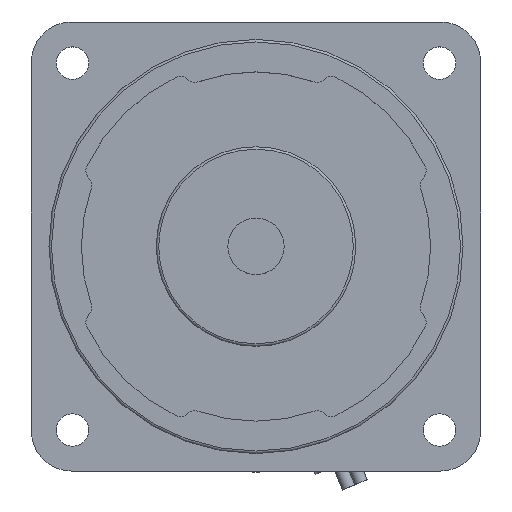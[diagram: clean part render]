
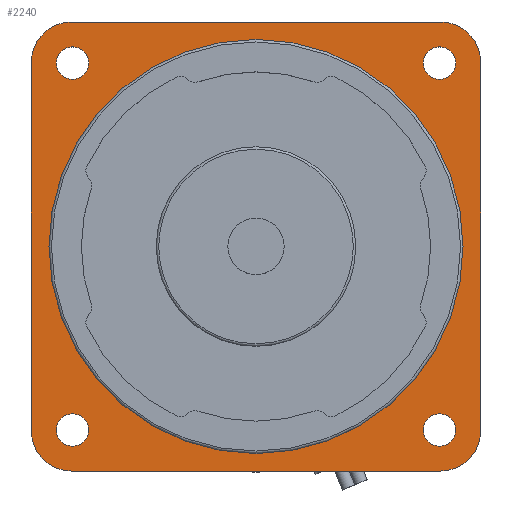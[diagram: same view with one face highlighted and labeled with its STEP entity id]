
A CAD part, top view. The second image highlights one B-rep face of the part: STEP entity #2240.
In plain terms, the highlighted planar face has unit normal (0, 0, 1).
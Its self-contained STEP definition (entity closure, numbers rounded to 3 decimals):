
#1013=CARTESIAN_POINT('',(41.5,0.,105.));
#1014=VERTEX_POINT('',#1013);
#1015=CARTESIAN_POINT('',(0.0,0.0,105.));
#1016=DIRECTION('',(0.0,0.0,-1.0));
#1017=DIRECTION('',(-1.0,0.0,0.0));
#1018=AXIS2_PLACEMENT_3D('',#1015,#1016,#1017);
#1019=CIRCLE('',#1018,41.5);
#1020=EDGE_CURVE('',#1014,#1014,#1019,.T.);
#1939=CARTESIAN_POINT('',(45.,37.0,105.));
#1940=VERTEX_POINT('',#1939);
#1941=CARTESIAN_POINT('',(45.,-37.0,105.));
#1942=VERTEX_POINT('',#1941);
#1943=CARTESIAN_POINT('',(45.,37.0,105.0));
#1944=DIRECTION('',(0.0,-1.0,0.0));
#1945=VECTOR('',#1944,74.0);
#1946=LINE('',#1943,#1945);
#1947=EDGE_CURVE('',#1940,#1942,#1946,.T.);
#1970=CARTESIAN_POINT('',(37.,-45.0,105.));
#1971=VERTEX_POINT('',#1970);
#1972=CARTESIAN_POINT('',(37.,-37.0,105.0));
#1973=DIRECTION('',(0.0,0.0,-1.0));
#1974=DIRECTION('',(0.0,1.0,0.0));
#1975=AXIS2_PLACEMENT_3D('',#1972,#1973,#1974);
#1976=CIRCLE('',#1975,8.);
#1977=EDGE_CURVE('',#1942,#1971,#1976,.T.);
#1995=CARTESIAN_POINT('',(-37.,-45.0,105.));
#1996=VERTEX_POINT('',#1995);
#1997=CARTESIAN_POINT('',(37.,-45.0,105.0));
#1998=DIRECTION('',(-1.0,0.0,0.0));
#1999=VECTOR('',#1998,74.);
#2000=LINE('',#1997,#1999);
#2001=EDGE_CURVE('',#1971,#1996,#2000,.T.);
#2019=CARTESIAN_POINT('',(-45.,-37.0,105.));
#2020=VERTEX_POINT('',#2019);
#2021=CARTESIAN_POINT('',(-37.,-37.0,105.0));
#2022=DIRECTION('',(0.0,0.0,-1.0));
#2023=DIRECTION('',(1.0,0.0,0.0));
#2024=AXIS2_PLACEMENT_3D('',#2021,#2022,#2023);
#2025=CIRCLE('',#2024,8.);
#2026=EDGE_CURVE('',#1996,#2020,#2025,.T.);
#2044=CARTESIAN_POINT('',(-45.,37.0,105.));
#2045=VERTEX_POINT('',#2044);
#2046=CARTESIAN_POINT('',(-45.,-37.0,105.0));
#2047=DIRECTION('',(0.0,1.0,0.0));
#2048=VECTOR('',#2047,74.0);
#2049=LINE('',#2046,#2048);
#2050=EDGE_CURVE('',#2020,#2045,#2049,.T.);
#2068=CARTESIAN_POINT('',(-37.,45.0,105.));
#2069=VERTEX_POINT('',#2068);
#2070=CARTESIAN_POINT('',(-37.,37.0,105.0));
#2071=DIRECTION('',(0.0,0.0,-1.0));
#2072=DIRECTION('',(0.0,-1.0,0.0));
#2073=AXIS2_PLACEMENT_3D('',#2070,#2071,#2072);
#2074=CIRCLE('',#2073,8.);
#2075=EDGE_CURVE('',#2045,#2069,#2074,.T.);
#2095=CARTESIAN_POINT('',(37.,45.0,105.));
#2096=VERTEX_POINT('',#2095);
#2097=CARTESIAN_POINT('',(-37.,45.0,105.0));
#2098=DIRECTION('',(1.0,0.0,0.0));
#2099=VECTOR('',#2098,74.);
#2100=LINE('',#2097,#2099);
#2101=EDGE_CURVE('',#2069,#2096,#2100,.T.);
#2117=CARTESIAN_POINT('',(37.,37.0,105.0));
#2118=DIRECTION('',(0.0,0.0,-1.0));
#2119=DIRECTION('',(-1.0,0.0,0.0));
#2120=AXIS2_PLACEMENT_3D('',#2117,#2118,#2119);
#2121=CIRCLE('',#2120,8.);
#2122=EDGE_CURVE('',#2096,#1940,#2121,.T.);
#2138=CARTESIAN_POINT('',(40.02,36.77,105.));
#2139=VERTEX_POINT('',#2138);
#2140=CARTESIAN_POINT('',(36.77,36.77,105.));
#2141=DIRECTION('',(0.0,0.0,-1.0));
#2142=DIRECTION('',(-1.0,0.0,0.0));
#2143=AXIS2_PLACEMENT_3D('',#2140,#2141,#2142);
#2144=CIRCLE('',#2143,3.25);
#2145=EDGE_CURVE('',#2139,#2139,#2144,.T.);
#2158=CARTESIAN_POINT('',(40.02,-36.77,105.));
#2159=VERTEX_POINT('',#2158);
#2160=CARTESIAN_POINT('',(36.77,-36.77,105.));
#2161=DIRECTION('',(0.0,0.0,-1.0));
#2162=DIRECTION('',(-1.0,0.0,0.0));
#2163=AXIS2_PLACEMENT_3D('',#2160,#2161,#2162);
#2164=CIRCLE('',#2163,3.25);
#2165=EDGE_CURVE('',#2159,#2159,#2164,.T.);
#2178=CARTESIAN_POINT('',(-33.52,-36.77,105.));
#2179=VERTEX_POINT('',#2178);
#2180=CARTESIAN_POINT('',(-36.77,-36.77,105.));
#2181=DIRECTION('',(0.0,0.0,-1.0));
#2182=DIRECTION('',(-1.0,0.0,0.0));
#2183=AXIS2_PLACEMENT_3D('',#2180,#2181,#2182);
#2184=CIRCLE('',#2183,3.25);
#2185=EDGE_CURVE('',#2179,#2179,#2184,.T.);
#2198=CARTESIAN_POINT('',(-33.52,36.77,105.));
#2199=VERTEX_POINT('',#2198);
#2200=CARTESIAN_POINT('',(-36.77,36.77,105.));
#2201=DIRECTION('',(0.0,0.0,-1.0));
#2202=DIRECTION('',(-1.0,0.0,0.0));
#2203=AXIS2_PLACEMENT_3D('',#2200,#2201,#2202);
#2204=CIRCLE('',#2203,3.25);
#2205=EDGE_CURVE('',#2199,#2199,#2204,.T.);
#2210=CARTESIAN_POINT('',(0.,0.,105.));
#2211=DIRECTION('',(0.0,0.0,1.0));
#2212=DIRECTION('',(1.0,0.0,0.0));
#2213=AXIS2_PLACEMENT_3D('',#2210,#2211,#2212);
#2214=PLANE('',#2213);
#2215=ORIENTED_EDGE('',*,*,#2122,.F.);
#2216=ORIENTED_EDGE('',*,*,#2101,.F.);
#2217=ORIENTED_EDGE('',*,*,#2075,.F.);
#2218=ORIENTED_EDGE('',*,*,#2050,.F.);
#2219=ORIENTED_EDGE('',*,*,#2026,.F.);
#2220=ORIENTED_EDGE('',*,*,#2001,.F.);
#2221=ORIENTED_EDGE('',*,*,#1977,.F.);
#2222=ORIENTED_EDGE('',*,*,#1947,.F.);
#2223=EDGE_LOOP('',(#2215,#2216,#2217,#2218,#2219,#2220,#2221,#2222));
#2224=FACE_OUTER_BOUND('',#2223,.T.);
#2225=ORIENTED_EDGE('',*,*,#2205,.T.);
#2226=EDGE_LOOP('',(#2225));
#2227=FACE_BOUND('',#2226,.T.);
#2228=ORIENTED_EDGE('',*,*,#2185,.T.);
#2229=EDGE_LOOP('',(#2228));
#2230=FACE_BOUND('',#2229,.T.);
#2231=ORIENTED_EDGE('',*,*,#2165,.T.);
#2232=EDGE_LOOP('',(#2231));
#2233=FACE_BOUND('',#2232,.T.);
#2234=ORIENTED_EDGE('',*,*,#2145,.T.);
#2235=EDGE_LOOP('',(#2234));
#2236=FACE_BOUND('',#2235,.T.);
#2237=ORIENTED_EDGE('',*,*,#1020,.T.);
#2238=EDGE_LOOP('',(#2237));
#2239=FACE_BOUND('',#2238,.T.);
#2240=ADVANCED_FACE('',(#2224,#2227,#2230,#2233,#2236,#2239),#2214,.T.);
